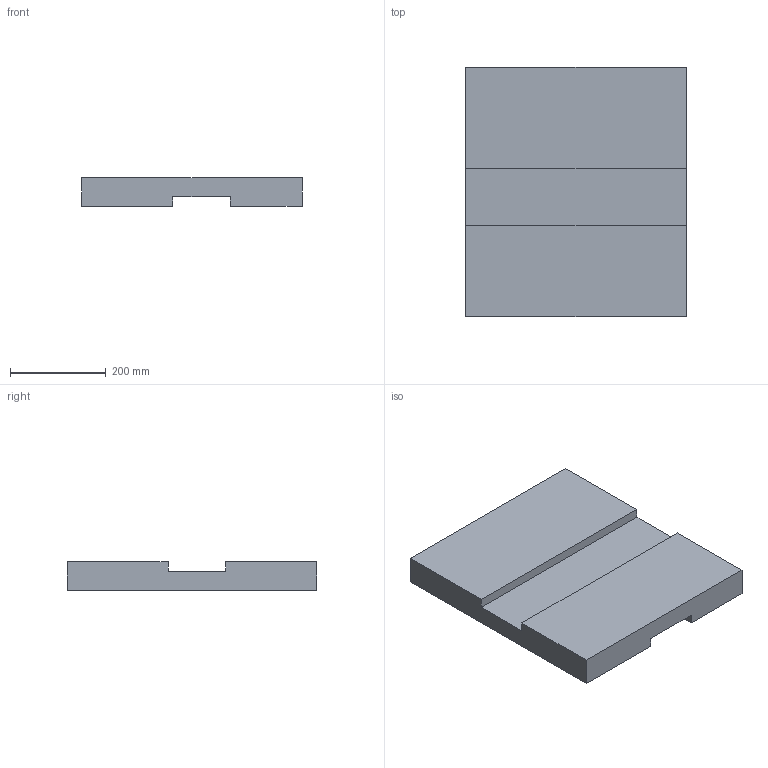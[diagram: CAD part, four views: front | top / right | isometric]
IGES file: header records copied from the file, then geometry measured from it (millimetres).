
Start section: SolidWorks IGES file using analytic representation for surfaces
Global section: file name: J:\Scolaire\BAC Pro\Epreuves professionnelles\E2\CD\Dossier Examinateurs\Dessins CN 5 axes\IGES\Transversal.IGS; native system: SolidWorks 2005 by SolidWorks Corporation; preprocessor: SolidWorks 2005 by SolidWorks Corporation; author: Famille Couzi; date: 091204.123334; units: millimetre
Bounding box: 460 x 520 x 60 mm (x, y, z)
Surface area: 625600 mm2 (no closed solid volume)
Topology: 0 solids, 0 shells, 14 faces, 72 edges, 72 vertices
Faces by surface type: bspline 14
